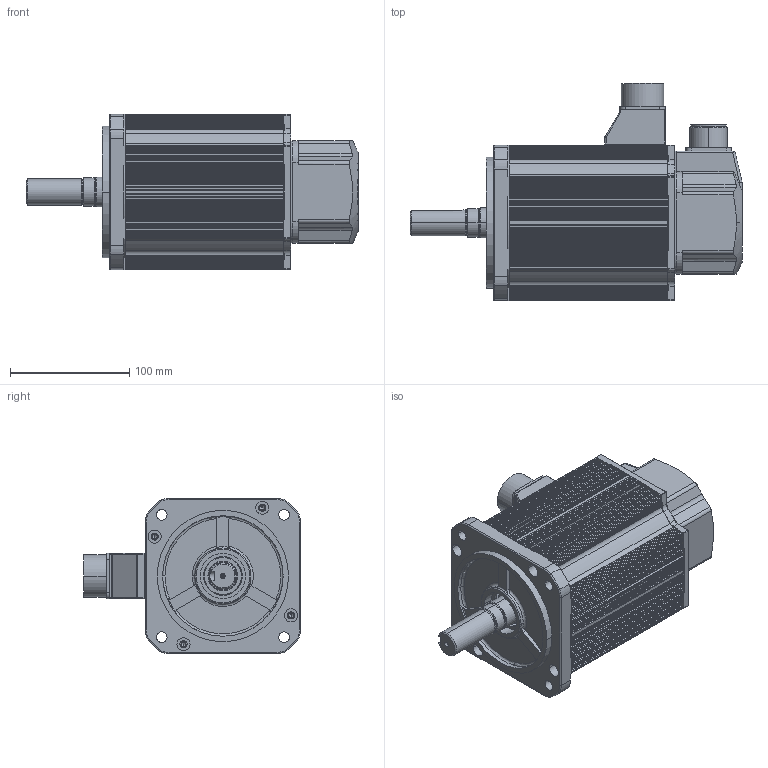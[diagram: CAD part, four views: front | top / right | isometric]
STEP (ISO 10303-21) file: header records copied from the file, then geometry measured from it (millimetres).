
FILE_DESCRIPTION (( 'STEP AP203' ), '1' );
FILE_NAME ('KANH-10B(BR).STEP', '2026-09-12T02:54:23', ( '' ), ( '' ), 'SwSTEP 2.0', 'SolidWorks 2023', '' );
FILE_SCHEMA (( 'CONFIG_CONTROL_DESIGN' ));
Length unit declared in the file: millimetre
Products named in the file (11): 10050523 GASKET_돌출형; □130-136.0mm(1.0kW,BR,MS20); 10050579 CONNECTOR BOX_MS20; 1005052200 ENCODER COVER; MS3102A 20-29P; MS3102A 20_표준; Ø22-KEY8X41; □130 BRACKET_BR; KANH-10B(BR); 10050511 RUBBER SEAL_MS20; □130 FLANGE
Assembly tree (10 placements, depth 2):
  KANH-10B(BR)
    Ø22-KEY8X41
    □130 FLANGE
    □130-136.0mm(1.0kW,BR,MS20)
    □130 BRACKET_BR
    10050511 RUBBER SEAL_MS20
    10050579 CONNECTOR BOX_MS20
    MS3102A 20_표준
    MS3102A 20-29P
    1005052200 ENCODER COVER
    10050523 GASKET_돌출형
Bounding box: 278.2 x 181.75 x 130 mm (x, y, z)
Volume: 685320.3 mm3; surface area: 367067.1 mm2
Topology: 10 solids, 10 shells, 2491 faces, 6891 edges, 4455 vertices
Faces by surface type: plane 1171, cylinder 986, torus 185, bspline 83, cone 56, sphere 10
Entity records: 84366 total; most frequent: CARTESIAN_POINT 18672, DIRECTION 13678, ORIENTED_EDGE 13654, EDGE_CURVE 6827, AXIS2_PLACEMENT_3D 4817, VERTEX_POINT 4455, VECTOR 4044, LINE 4044
